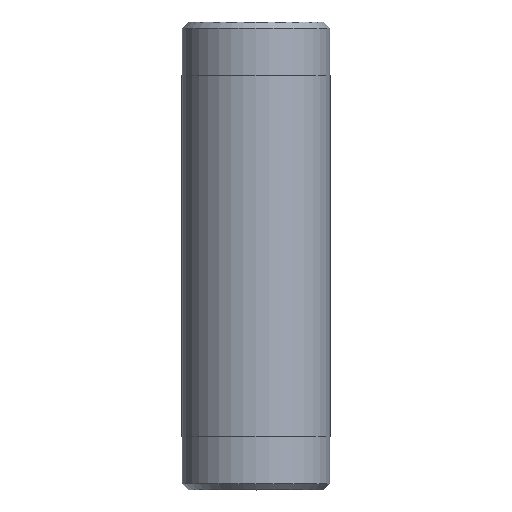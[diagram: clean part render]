
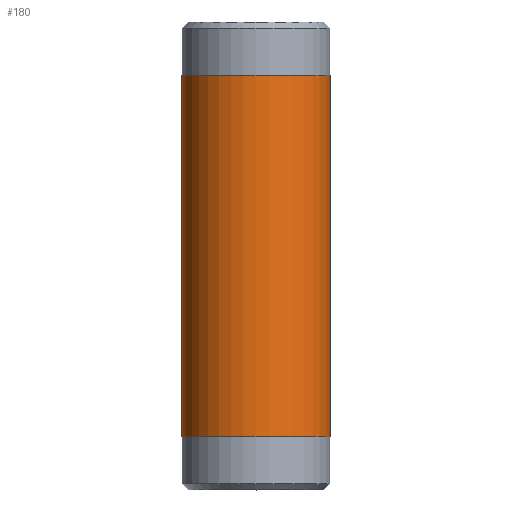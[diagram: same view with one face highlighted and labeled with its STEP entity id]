
A CAD part, top view. The second image highlights one B-rep face of the part: STEP entity #180.
In plain terms, the highlighted cylindrical face has radius 24.13 mm (diameter 48.26 mm), a full revolution.
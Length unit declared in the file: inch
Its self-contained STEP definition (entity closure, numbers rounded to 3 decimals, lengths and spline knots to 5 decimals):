
#25=CYLINDRICAL_SURFACE('',#220,0.95);
#34=FACE_OUTER_BOUND('',#47,.T.);
#47=EDGE_LOOP('',(#155,#156,#157,#158,#159,#160));
#55=LINE('',#338,#61);
#61=VECTOR('',#283,0.95);
#77=CIRCLE('',#218,0.95);
#78=CIRCLE('',#219,0.95);
#79=CIRCLE('',#221,0.95);
#80=CIRCLE('',#222,0.95);
#95=VERTEX_POINT('',#329);
#96=VERTEX_POINT('',#330);
#97=VERTEX_POINT('',#334);
#98=VERTEX_POINT('',#335);
#117=EDGE_CURVE('',#95,#96,#77,.T.);
#118=EDGE_CURVE('',#96,#95,#78,.T.);
#119=EDGE_CURVE('',#97,#98,#79,.T.);
#120=EDGE_CURVE('',#98,#97,#80,.T.);
#121=EDGE_CURVE('',#98,#96,#55,.T.);
#155=ORIENTED_EDGE('',*,*,#119,.F.);
#156=ORIENTED_EDGE('',*,*,#120,.F.);
#157=ORIENTED_EDGE('',*,*,#121,.T.);
#158=ORIENTED_EDGE('',*,*,#118,.T.);
#159=ORIENTED_EDGE('',*,*,#117,.T.);
#160=ORIENTED_EDGE('',*,*,#121,.F.);
#180=ADVANCED_FACE('',(#34),#25,.T.);
#218=AXIS2_PLACEMENT_3D('',#331,#273,#274);
#219=AXIS2_PLACEMENT_3D('',#332,#275,#276);
#220=AXIS2_PLACEMENT_3D('',#333,#277,#278);
#221=AXIS2_PLACEMENT_3D('',#336,#279,#280);
#222=AXIS2_PLACEMENT_3D('',#337,#281,#282);
#273=DIRECTION('center_axis',(0.,-1.,0.));
#274=DIRECTION('ref_axis',(1.,0.,0.));
#275=DIRECTION('center_axis',(0.,-1.,0.));
#276=DIRECTION('ref_axis',(1.,0.,0.));
#277=DIRECTION('center_axis',(0.,-1.,0.));
#278=DIRECTION('ref_axis',(0.,0.,-1.));
#279=DIRECTION('center_axis',(0.,-1.,0.));
#280=DIRECTION('ref_axis',(1.,0.,0.));
#281=DIRECTION('center_axis',(0.,-1.,0.));
#282=DIRECTION('ref_axis',(1.,0.,0.));
#283=DIRECTION('',(0.,1.,0.));
#329=CARTESIAN_POINT('',(0.,5.319,-0.95));
#330=CARTESIAN_POINT('',(0.,5.319,0.95));
#331=CARTESIAN_POINT('Origin',(0.,5.319,0.));
#332=CARTESIAN_POINT('Origin',(0.,5.319,0.));
#333=CARTESIAN_POINT('Origin',(0.,3.,0.));
#334=CARTESIAN_POINT('',(0.,0.681,-0.95));
#335=CARTESIAN_POINT('',(0.,0.681,0.95));
#336=CARTESIAN_POINT('Origin',(0.,0.681,0.));
#337=CARTESIAN_POINT('Origin',(0.,0.681,0.));
#338=CARTESIAN_POINT('',(0.,3.,0.95));
